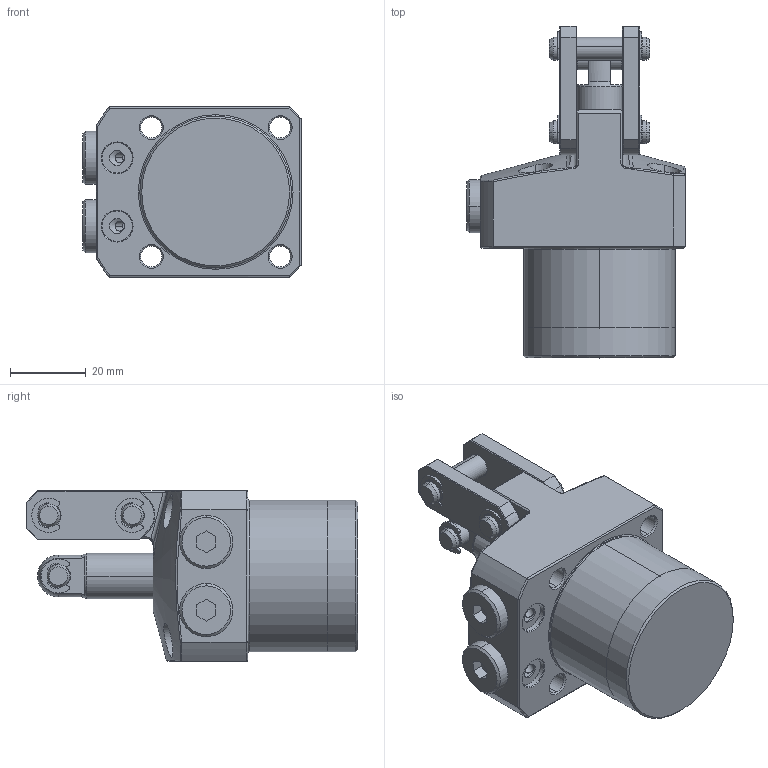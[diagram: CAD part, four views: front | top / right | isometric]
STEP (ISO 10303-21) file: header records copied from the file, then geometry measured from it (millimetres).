
FILE_DESCRIPTION(/* description */ (''),/* implementation_level */ '2;1');
FILE_NAME(/* name */ 'KTPC40-R.stp',/* time_stamp */ '2022-11-18T14:29:28+08:00',/* author */ (''),/* organization */ (''),/* preprocessor_version */ 'ST-DEVELOPER v16.7',/* originating_system */ 'SIEMENS PLM Software NX 12.0',/* authorisation */ '');
FILE_SCHEMA (('AP203_CONFIGURATION_CONTROLLED_3D_DESIGN_OF_MECHANICAL_PARTS_AND_ASSEMBLIES_MIM_LF { 1 0 10303 403 2 1 2}'));
Length unit declared in the file: millimetre
Products named in the file (9): KTPC40-R-06; KTPC40-R-05; KTPC40-R-03; KTPC40-R-04; KTPC40-R-07; KTPC40-R-02; KTPC40-R-01; KTPC40-R-08; LKA0400-CR_step
Assembly tree (16 placements, depth 2):
  LKA0400-CR_step
    KTPC40-R-08  x6
    KTPC40-R-01
    KTPC40-R-02  x2
    KTPC40-R-07  x2
    KTPC40-R-04  x2
    KTPC40-R-03
    KTPC40-R-05
    KTPC40-R-06
Bounding box: 57.5 x 87.5 x 45 mm (x, y, z)
Volume: 123220.5 mm3; surface area: 27755.6 mm2
Topology: 16 solids, 16 shells, 559 faces, 1347 edges, 842 vertices
Faces by surface type: cylinder 236, plane 175, cone 69, torus 60, bspline 17, sphere 2
Full cylindrical faces by diameter (mm): 40 x1
Entity records: 11450 total; most frequent: CARTESIAN_POINT 2838, DIRECTION 1615, ORIENTED_EDGE 1486, EDGE_CURVE 743, AXIS2_PLACEMENT_3D 661, VERTEX_POINT 456, EDGE_LOOP 361, CIRCLE 339
